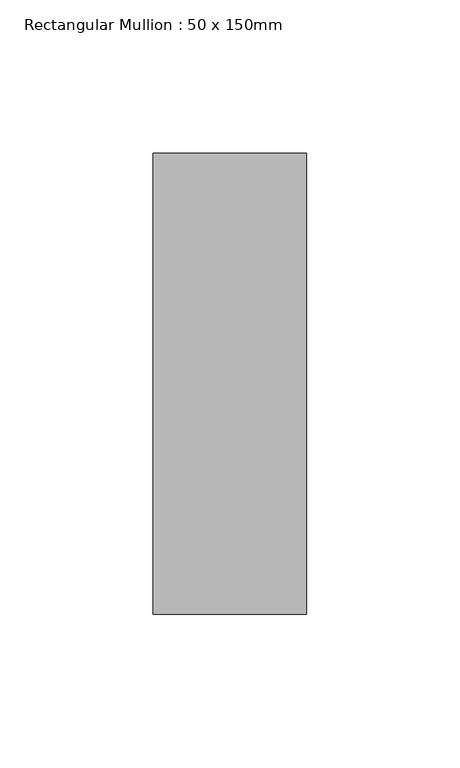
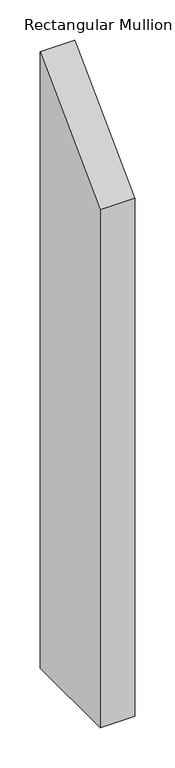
"""IFC4 building model written with IfcOpenShell, lengths in millimetres: member geometry, Rectangular Mullion : 50 x 150mm."""

from ifc_helpers import new_model, si_unit, frame, origin, place, context, project, spatial, polyline, outline, extrude, source, transform, mapped, element, save


def rectangular_mullion_50_x_150mm_c4a1d10e(model_context):
    return source(origin(), model_context, "Body", "SweptSolid", [
        extrude(outline(polyline([(-75.0, -75.0), (75.0, 75.0), (75.0, -865.592625), (-75.0, -865.592625), (-75.0, -75.0)])), frame((-25.0, 0.0, 0.0), z_axis=(1.0, 0.0, 0.0), x_axis=(0.0, 1.0, 0.0)), (0.0, 0.0, 1.0), 50.0),
    ])


if __name__ == "__main__":
    model = new_model("IFC4")
    model_context = context("Model", 3, world=origin())
    ifc_project = project(units=[si_unit("LENGTHUNIT", "METRE", prefix="MILLI")], contexts=[model_context])
    site = spatial("IfcSite", under=ifc_project)
    building = spatial("IfcBuilding", under=site)
    placement = place(None, origin())
    rectangular_mullion_50_x_150mm_shape = rectangular_mullion_50_x_150mm_c4a1d10e(model_context)
    element("IfcMember", 1, ObjectType="Rectangular Mullion : 50 x 150mm", at=placement, inside=building, context=model_context, shape_type="MappedRepresentation", body=[
        mapped(rectangular_mullion_50_x_150mm_shape, transform((0.0, 0.0, 0.0), x_axis=(1.0, 0.0, 0.0), y_axis=(0.0, 1.0, 0.0), z_axis=(0.0, 0.0, 1.0))),
    ])
    save(model, "model.ifc")
